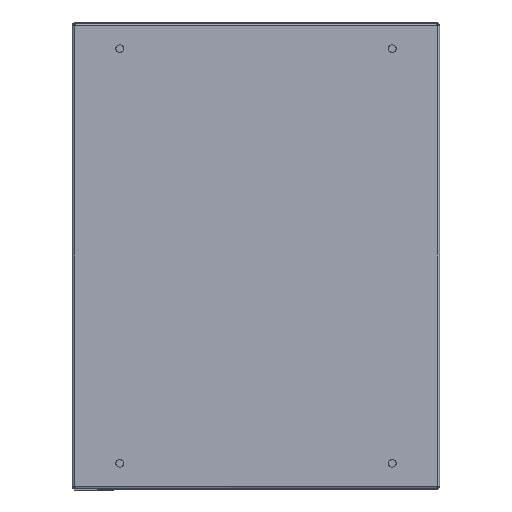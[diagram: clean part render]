
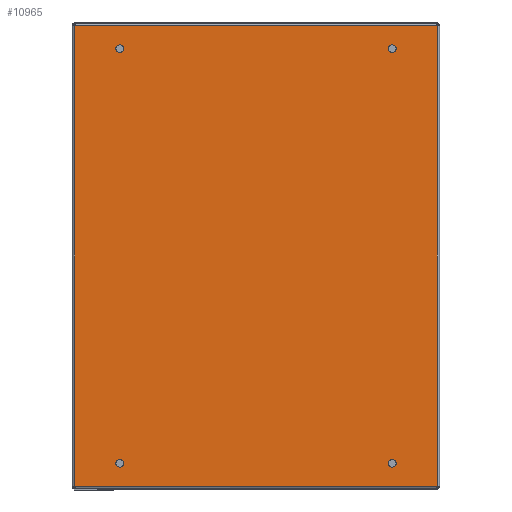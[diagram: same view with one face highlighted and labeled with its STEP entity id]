
A CAD part, front view. The second image highlights one B-rep face of the part: STEP entity #10965.
In plain terms, the highlighted planar face has unit normal (0, -1, 0).
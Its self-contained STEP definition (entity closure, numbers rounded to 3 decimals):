
#69 = EDGE_CURVE ( 'NONE', #7715, #674, #10004, .T. ) ;
#264 = CARTESIAN_POINT ( 'NONE',  ( -152.8, 0., -194.3 ) ) ;
#277 = DIRECTION ( 'NONE',  ( 0., 1., 0. ) ) ;
#318 = CARTESIAN_POINT ( 'NONE',  ( -115., 0., 175. ) ) ;
#330 = DIRECTION ( 'NONE',  ( 0., 1., 0. ) ) ;
#411 = LINE ( 'NONE', #1912, #5381 ) ;
#475 = ORIENTED_EDGE ( 'NONE', *, *, #1223, .T. ) ;
#548 = EDGE_CURVE ( 'NONE', #1651, #10685, #8776, .T. ) ;
#597 = ORIENTED_EDGE ( 'NONE', *, *, #69, .T. ) ;
#674 = VERTEX_POINT ( 'NONE', #11046 ) ;
#754 = EDGE_CURVE ( 'NONE', #2690, #3379, #3298, .T. ) ;
#901 = AXIS2_PLACEMENT_3D ( 'NONE', #1275, #277, #3953 ) ;
#977 = AXIS2_PLACEMENT_3D ( 'NONE', #4493, #5628, #2691 ) ;
#1018 = CARTESIAN_POINT ( 'NONE',  ( 152.8, 0., 194.3 ) ) ;
#1131 = AXIS2_PLACEMENT_3D ( 'NONE', #4556, #5387, #11995 ) ;
#1207 = ORIENTED_EDGE ( 'NONE', *, *, #7456, .T. ) ;
#1210 = DIRECTION ( 'NONE',  ( 0., 0., 1. ) ) ;
#1223 = EDGE_CURVE ( 'NONE', #5196, #3367, #3139, .T. ) ;
#1250 = DIRECTION ( 'NONE',  ( -1., 0., 0. ) ) ;
#1275 = CARTESIAN_POINT ( 'NONE',  ( 115., 0., 175. ) ) ;
#1280 = DIRECTION ( 'NONE',  ( 1., 0., 0. ) ) ;
#1409 = EDGE_CURVE ( 'NONE', #3367, #5196, #6082, .T. ) ;
#1461 = CARTESIAN_POINT ( 'NONE',  ( 118.25, 0., -175. ) ) ;
#1480 = FACE_BOUND ( 'NONE', #8443, .T. ) ;
#1633 = FACE_BOUND ( 'NONE', #10546, .T. ) ;
#1651 = VERTEX_POINT ( 'NONE', #9272 ) ;
#1912 = CARTESIAN_POINT ( 'NONE',  ( 152.8, 0., -194.3 ) ) ;
#1965 = CIRCLE ( 'NONE', #6426, 3.25 ) ;
#1986 = VERTEX_POINT ( 'NONE', #3371 ) ;
#2315 = CARTESIAN_POINT ( 'NONE',  ( 152.8, 0., -194.3 ) ) ;
#2326 = CARTESIAN_POINT ( 'NONE',  ( -152.8, 0., -194.3 ) ) ;
#2433 = CARTESIAN_POINT ( 'NONE',  ( 118.25, 0., 175. ) ) ;
#2690 = VERTEX_POINT ( 'NONE', #1461 ) ;
#2691 = DIRECTION ( 'NONE',  ( -1., 0., 0. ) ) ;
#2703 = VERTEX_POINT ( 'NONE', #2315 ) ;
#2904 = DIRECTION ( 'NONE',  ( 0., 1., 0. ) ) ;
#3139 = CIRCLE ( 'NONE', #10276, 3.25 ) ;
#3190 = EDGE_CURVE ( 'NONE', #3700, #1986, #11235, .T. ) ;
#3298 = CIRCLE ( 'NONE', #977, 3.25 ) ;
#3367 = VERTEX_POINT ( 'NONE', #9496 ) ;
#3371 = CARTESIAN_POINT ( 'NONE',  ( -152.8, 0., 194.3 ) ) ;
#3379 = VERTEX_POINT ( 'NONE', #8400 ) ;
#3412 = EDGE_LOOP ( 'NONE', ( #3672, #1207, #11517, #6824 ) ) ;
#3661 = ORIENTED_EDGE ( 'NONE', *, *, #1409, .T. ) ;
#3672 = ORIENTED_EDGE ( 'NONE', *, *, #11154, .T. ) ;
#3700 = VERTEX_POINT ( 'NONE', #2326 ) ;
#3908 = PLANE ( 'NONE',  #8883 ) ;
#3953 = DIRECTION ( 'NONE',  ( -1., 0., 0. ) ) ;
#4222 = EDGE_CURVE ( 'NONE', #10685, #1651, #10873, .T. ) ;
#4252 = DIRECTION ( 'NONE',  ( 1., 0., 0. ) ) ;
#4493 = CARTESIAN_POINT ( 'NONE',  ( 115., 0., -175. ) ) ;
#4556 = CARTESIAN_POINT ( 'NONE',  ( -115., 0., -175. ) ) ;
#4855 = FACE_BOUND ( 'NONE', #6393, .T. ) ;
#4857 = DIRECTION ( 'NONE',  ( -1., 0., 0. ) ) ;
#4990 = AXIS2_PLACEMENT_3D ( 'NONE', #318, #6884, #1280 ) ;
#5196 = VERTEX_POINT ( 'NONE', #7250 ) ;
#5318 = CARTESIAN_POINT ( 'NONE',  ( -115., 0., -175. ) ) ;
#5356 = ORIENTED_EDGE ( 'NONE', *, *, #754, .T. ) ;
#5381 = VECTOR ( 'NONE', #10374, 1000. ) ;
#5387 = DIRECTION ( 'NONE',  ( 0., 1., 0. ) ) ;
#5628 = DIRECTION ( 'NONE',  ( 0., 1., 0. ) ) ;
#5650 = VERTEX_POINT ( 'NONE', #6409 ) ;
#5766 = DIRECTION ( 'NONE',  ( -1., 0., 0. ) ) ;
#5958 = CARTESIAN_POINT ( 'NONE',  ( 115., 0., -175. ) ) ;
#6082 = CIRCLE ( 'NONE', #4990, 3.25 ) ;
#6278 = DIRECTION ( 'NONE',  ( 1., 0., 0. ) ) ;
#6393 = EDGE_LOOP ( 'NONE', ( #8290, #5356 ) ) ;
#6409 = CARTESIAN_POINT ( 'NONE',  ( 152.8, 0., 194.3 ) ) ;
#6426 = AXIS2_PLACEMENT_3D ( 'NONE', #5958, #330, #1250 ) ;
#6558 = DIRECTION ( 'NONE',  ( 1., 0., 0. ) ) ;
#6690 = EDGE_LOOP ( 'NONE', ( #597, #7527 ) ) ;
#6824 = ORIENTED_EDGE ( 'NONE', *, *, #3190, .F. ) ;
#6836 = CARTESIAN_POINT ( 'NONE',  ( -152.8, 0., -196.5 ) ) ;
#6884 = DIRECTION ( 'NONE',  ( 0., 1., 0. ) ) ;
#6904 = LINE ( 'NONE', #9920, #9101 ) ;
#7250 = CARTESIAN_POINT ( 'NONE',  ( -118.25, 0., 175. ) ) ;
#7346 = FACE_BOUND ( 'NONE', #6690, .T. ) ;
#7378 = VECTOR ( 'NONE', #9566, 1000. ) ;
#7456 = EDGE_CURVE ( 'NONE', #2703, #5650, #411, .T. ) ;
#7527 = ORIENTED_EDGE ( 'NONE', *, *, #9847, .T. ) ;
#7532 = CARTESIAN_POINT ( 'NONE',  ( 115., 0., 175. ) ) ;
#7715 = VERTEX_POINT ( 'NONE', #9974 ) ;
#8290 = ORIENTED_EDGE ( 'NONE', *, *, #10002, .T. ) ;
#8400 = CARTESIAN_POINT ( 'NONE',  ( 111.75, 0., -175. ) ) ;
#8443 = EDGE_LOOP ( 'NONE', ( #9513, #11595 ) ) ;
#8509 = DIRECTION ( 'NONE',  ( 0., 1., 0. ) ) ;
#8776 = CIRCLE ( 'NONE', #9479, 3.25 ) ;
#8796 = AXIS2_PLACEMENT_3D ( 'NONE', #5318, #11927, #6278 ) ;
#8883 = AXIS2_PLACEMENT_3D ( 'NONE', #6836, #9688, #4857 ) ;
#9101 = VECTOR ( 'NONE', #4252, 1000. ) ;
#9110 = FACE_OUTER_BOUND ( 'NONE', #3412, .T. ) ;
#9272 = CARTESIAN_POINT ( 'NONE',  ( 111.75, 0., 175. ) ) ;
#9479 = AXIS2_PLACEMENT_3D ( 'NONE', #7532, #2904, #5766 ) ;
#9496 = CARTESIAN_POINT ( 'NONE',  ( -111.75, 0., 175. ) ) ;
#9513 = ORIENTED_EDGE ( 'NONE', *, *, #548, .T. ) ;
#9566 = DIRECTION ( 'NONE',  ( -1., 0., 0. ) ) ;
#9688 = DIRECTION ( 'NONE',  ( 0., -1., 0. ) ) ;
#9847 = EDGE_CURVE ( 'NONE', #674, #7715, #11540, .T. ) ;
#9920 = CARTESIAN_POINT ( 'NONE',  ( -152.8, 0., -194.3 ) ) ;
#9974 = CARTESIAN_POINT ( 'NONE',  ( -111.75, 0., -175. ) ) ;
#10002 = EDGE_CURVE ( 'NONE', #3379, #2690, #1965, .T. ) ;
#10004 = CIRCLE ( 'NONE', #1131, 3.25 ) ;
#10209 = VECTOR ( 'NONE', #1210, 1000. ) ;
#10276 = AXIS2_PLACEMENT_3D ( 'NONE', #10476, #8509, #6558 ) ;
#10374 = DIRECTION ( 'NONE',  ( 0., 0., 1. ) ) ;
#10476 = CARTESIAN_POINT ( 'NONE',  ( -115., 0., 175. ) ) ;
#10489 = EDGE_CURVE ( 'NONE', #5650, #1986, #11373, .T. ) ;
#10546 = EDGE_LOOP ( 'NONE', ( #3661, #475 ) ) ;
#10685 = VERTEX_POINT ( 'NONE', #2433 ) ;
#10873 = CIRCLE ( 'NONE', #901, 3.25 ) ;
#10965 = ADVANCED_FACE ( 'NONE', ( #9110, #7346, #1633, #1480, #4855 ), #3908, .T. ) ;
#11046 = CARTESIAN_POINT ( 'NONE',  ( -118.25, 0., -175. ) ) ;
#11154 = EDGE_CURVE ( 'NONE', #3700, #2703, #6904, .T. ) ;
#11235 = LINE ( 'NONE', #264, #10209 ) ;
#11373 = LINE ( 'NONE', #1018, #7378 ) ;
#11517 = ORIENTED_EDGE ( 'NONE', *, *, #10489, .T. ) ;
#11540 = CIRCLE ( 'NONE', #8796, 3.25 ) ;
#11595 = ORIENTED_EDGE ( 'NONE', *, *, #4222, .T. ) ;
#11927 = DIRECTION ( 'NONE',  ( 0., 1., 0. ) ) ;
#11995 = DIRECTION ( 'NONE',  ( 1., 0., 0. ) ) ;
